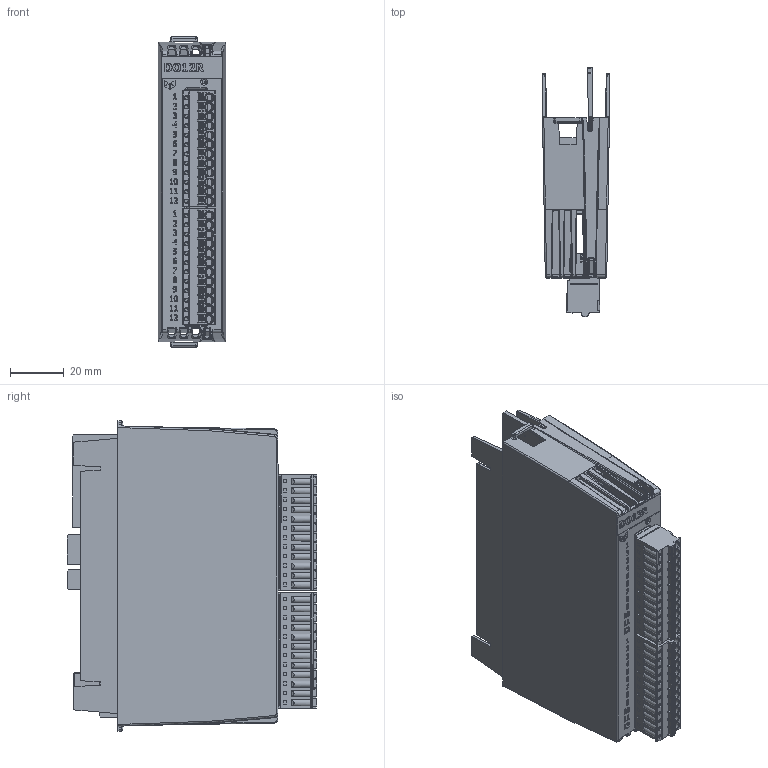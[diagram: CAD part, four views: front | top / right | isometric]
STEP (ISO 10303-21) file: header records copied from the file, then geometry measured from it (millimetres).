
FILE_DESCRIPTION(/* description */ (''),/* implementation_level */ '2;1');
FILE_NAME(/* name */ 'C:\Users\Public\Documents\Autodesk\Inventor 2023\DO08R_Simplified.stp',/* time_stamp */ '2024-10-16T19:53:42+02:00',/* author */ ('shoma'),/* organization */ (''),/* preprocessor_version */ 'ST-DEVELOPER v19',/* originating_system */ 'Autodesk Inventor 2023',/* authorisation */ '');
FILE_SCHEMA (('AUTOMOTIVE_DESIGN { 1 0 10303 214 3 1 1 }'));
Products named in the file (1): DO08R_Simplified
Bounding box: 24.95 x 92.98 x 115.5 mm (x, y, z)
Volume: 132666.5 mm3; surface area: 67328.1 mm2
Topology: 1 solids, 49 shells, 6373 faces, 16878 edges, 10805 vertices
Faces by surface type: plane 4207, cylinder 1335, bspline 567, cone 217, torus 25, sphere 22
Full cylindrical faces by diameter (mm): 0.296 x2, 0.3 x116, 0.457 x2, 1.17 x24, 1.2 x24, 1.25 x24, 1.3 x24, 1.6 x24, 2.5 x1, 3.1 x24
Entity records: 217757 total; most frequent: CARTESIAN_POINT 53981, ORIENTED_EDGE 33702, DIRECTION 30688, EDGE_CURVE 16851, LINE 12414, VECTOR 12414, VERTEX_POINT 10805, AXIS2_PLACEMENT_3D 9137
